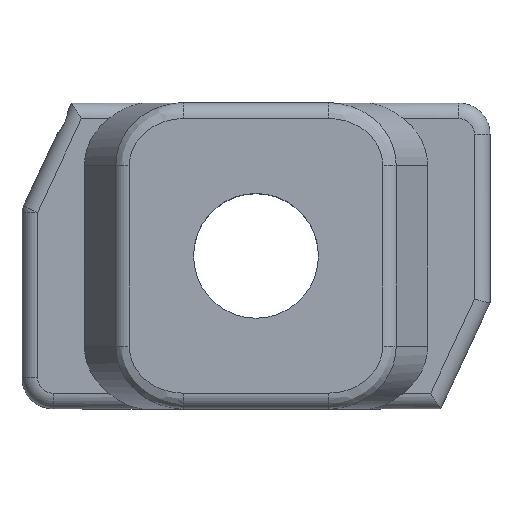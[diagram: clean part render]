
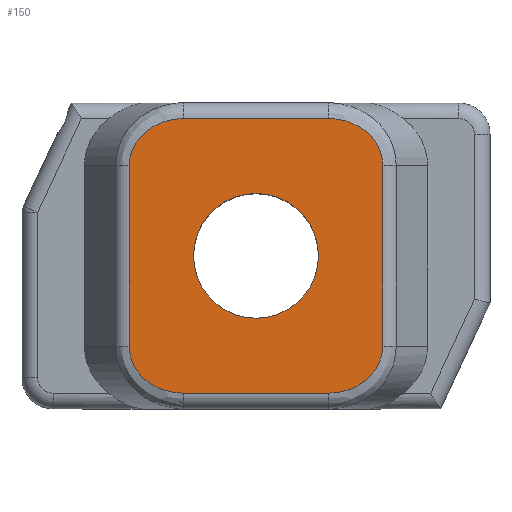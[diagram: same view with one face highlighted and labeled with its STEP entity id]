
A CAD part, top view. The second image highlights one B-rep face of the part: STEP entity #150.
In plain terms, the highlighted planar face has unit normal (0, 0, 1).
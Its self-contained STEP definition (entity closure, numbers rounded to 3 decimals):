
#150=ADVANCED_FACE('',(#338,#339),#340,.T.);
#338=FACE_BOUND('',#744,.T.);
#339=FACE_OUTER_BOUND('',#745,.T.);
#340=PLANE('',#746);
#744=EDGE_LOOP('',(#1281));
#745=EDGE_LOOP('',(#1282,#1283,#1284,#1285,#1286,#1287,#1288,#1289));
#746=AXIS2_PLACEMENT_3D('',#1290,#1291,#1292);
#1281=ORIENTED_EDGE('',*,*,#1773,.T.);
#1282=ORIENTED_EDGE('',*,*,#1774,.T.);
#1283=ORIENTED_EDGE('',*,*,#1775,.T.);
#1284=ORIENTED_EDGE('',*,*,#1776,.T.);
#1285=ORIENTED_EDGE('',*,*,#1769,.T.);
#1286=ORIENTED_EDGE('',*,*,#1777,.T.);
#1287=ORIENTED_EDGE('',*,*,#1778,.T.);
#1288=ORIENTED_EDGE('',*,*,#1779,.T.);
#1289=ORIENTED_EDGE('',*,*,#1780,.T.);
#1290=CARTESIAN_POINT('',(-7.5,-4.9,0.));
#1291=DIRECTION('',(0.0,0.0,1.0));
#1292=DIRECTION('',(1.0,0.0,0.0));
#1769=EDGE_CURVE('',#2063,#2061,#2064,.T.);
#1773=EDGE_CURVE('',#2069,#2069,#2070,.T.);
#1774=EDGE_CURVE('',#2071,#2072,#2073,.F.);
#1775=EDGE_CURVE('',#2072,#2074,#2075,.T.);
#1776=EDGE_CURVE('',#2074,#2063,#2076,.T.);
#1777=EDGE_CURVE('',#2061,#2077,#2078,.T.);
#1778=EDGE_CURVE('',#2077,#2079,#2080,.T.);
#1779=EDGE_CURVE('',#2079,#2081,#2082,.T.);
#1780=EDGE_CURVE('',#2081,#2071,#2083,.T.);
#2061=VERTEX_POINT('',#2446);
#2063=VERTEX_POINT('',#2448);
#2064=ELLIPSE('',#2449,1.73,1.5);
#2069=VERTEX_POINT('',#2454);
#2070=CIRCLE('',#2455,2.0);
#2071=VERTEX_POINT('',#2456);
#2072=VERTEX_POINT('',#2457);
#2073=LINE('',#2458,#2459);
#2074=VERTEX_POINT('',#2460);
#2075=ELLIPSE('',#2461,1.73,1.5);
#2076=LINE('',#2462,#2463);
#2077=VERTEX_POINT('',#2464);
#2078=LINE('',#2465,#2466);
#2079=VERTEX_POINT('',#2467);
#2080=ELLIPSE('',#2468,1.73,1.5);
#2081=VERTEX_POINT('',#2469);
#2082=LINE('',#2470,#2471);
#2083=ELLIPSE('',#2472,1.73,1.5);
#2446=CARTESIAN_POINT('',(4.061,-2.9,0.));
#2448=CARTESIAN_POINT('',(2.33,-4.4,0.));
#2449=AXIS2_PLACEMENT_3D('',#2826,#2827,#2828);
#2454=CARTESIAN_POINT('',(0.,-2.0,0.));
#2455=AXIS2_PLACEMENT_3D('',#2835,#2836,#2837);
#2456=CARTESIAN_POINT('',(-4.061,2.9,0.));
#2457=CARTESIAN_POINT('',(-4.061,-2.9,0.));
#2458=CARTESIAN_POINT('',(-4.061,-2.9,0.));
#2459=VECTOR('',#2838,1.0);
#2460=CARTESIAN_POINT('',(-2.33,-4.4,0.));
#2461=AXIS2_PLACEMENT_3D('',#2839,#2840,#2841);
#2462=CARTESIAN_POINT('',(2.043,-4.4,0.));
#2463=VECTOR('',#2842,1.0);
#2464=CARTESIAN_POINT('',(4.061,2.9,0.));
#2465=CARTESIAN_POINT('',(4.061,2.9,0.));
#2466=VECTOR('',#2843,1.0);
#2467=CARTESIAN_POINT('',(2.33,4.4,0.));
#2468=AXIS2_PLACEMENT_3D('',#2844,#2845,#2846);
#2469=CARTESIAN_POINT('',(-2.33,4.4,0.));
#2470=CARTESIAN_POINT('',(-2.043,4.4,0.));
#2471=VECTOR('',#2847,1.0);
#2472=AXIS2_PLACEMENT_3D('',#2848,#2849,#2850);
#2826=CARTESIAN_POINT('',(2.33,-2.9,0.));
#2827=DIRECTION('',(0.0,0.0,1.0));
#2828=DIRECTION('',(-1.0,0.0,0.0));
#2835=CARTESIAN_POINT('',(0.,0.0,0.));
#2836=DIRECTION('',(0.0,0.0,-1.0));
#2837=DIRECTION('',(0.0,-1.0,0.0));
#2838=DIRECTION('',(0.0,1.0,0.0));
#2839=CARTESIAN_POINT('',(-2.33,-2.9,0.));
#2840=DIRECTION('',(0.0,0.0,1.0));
#2841=DIRECTION('',(-1.0,0.0,0.0));
#2842=DIRECTION('',(1.0,0.0,0.0));
#2843=DIRECTION('',(0.0,1.0,0.0));
#2844=CARTESIAN_POINT('',(2.33,2.9,0.));
#2845=DIRECTION('',(0.0,0.0,1.0));
#2846=DIRECTION('',(-1.0,0.0,0.0));
#2847=DIRECTION('',(-1.0,0.0,0.0));
#2848=CARTESIAN_POINT('',(-2.33,2.9,0.));
#2849=DIRECTION('',(0.0,0.0,1.0));
#2850=DIRECTION('',(-1.0,0.0,0.0));
